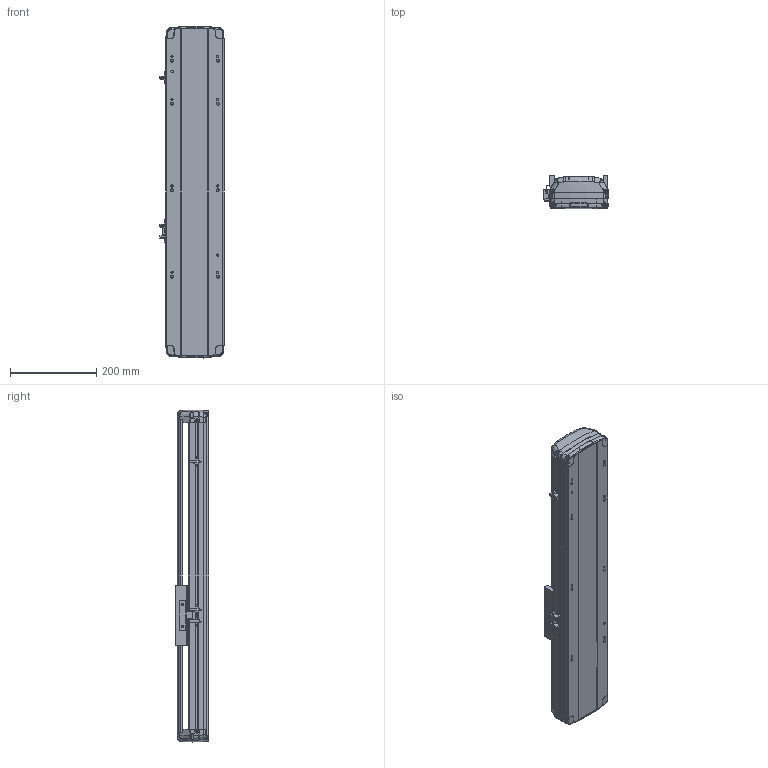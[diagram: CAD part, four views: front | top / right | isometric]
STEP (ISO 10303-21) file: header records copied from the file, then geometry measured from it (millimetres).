
FILE_DESCRIPTION (( 'STEP AP214' ), '1' );
FILE_NAME ('RTH14-XX-350-B-M20B-C4.STEP', '2025-10-24T08:33:58', ( 'Microsoft' ), ( 'Microsoft' ), 'SwSTEP 2.0', 'SolidWorks 2018', '' );
FILE_SCHEMA (( 'AUTOMOTIVE_DESIGN' ));
Length unit declared in the file: millimetre
Products named in the file (7): N_RTH14-R-004-SFSR16賑釱^RTH14-XX-XX-B-M20B-C4; N_RTH14-GY-001P^RTH14-XX-XX-B-M20B-C4; N_RTH13-L-012感应片（外置）^RTH14-XX-XX-B-M20B-C4; N_OMRON EE-SX672 传感器^RTH14-XX-XX-B-M20B-C4; N_RTH14-B-007B奻裔^RTH14-XX-XX-B-M20B-C4; RTH14-XX-350-B-M20B-C4; N_RTH14-B-011PB菁釱^RTH14-XX-XX-B-M20B-C4
Assembly tree (9 placements, depth 2):
  RTH14-XX-350-B-M20B-C4
    N_RTH14-B-011PB菁釱^RTH14-XX-XX-B-M20B-C4
    N_RTH14-B-007B奻裔^RTH14-XX-XX-B-M20B-C4
    N_RTH13-L-012感应片（外置）^RTH14-XX-XX-B-M20B-C4
    N_OMRON EE-SX672 传感器^RTH14-XX-XX-B-M20B-C4  x3
    N_RTH14-R-004-SFSR16賑釱^RTH14-XX-XX-B-M20B-C4
    N_RTH14-GY-001P^RTH14-XX-XX-B-M20B-C4  x2
Bounding box: 148.5 x 78.03 x 768.74 mm (x, y, z)
Volume: 3266327.2 mm3; surface area: 763122.6 mm2
Topology: 9 solids, 9 shells, 1900 faces, 5350 edges, 3482 vertices
Faces by surface type: plane 975, bspline 450, cylinder 411, cone 56, torus 8
Entity records: 45930 total; most frequent: CARTESIAN_POINT 20702, ORIENTED_EDGE 5716, DIRECTION 4161, EDGE_CURVE 2858, VERTEX_POINT 1868, VECTOR 1617, LINE 1617, AXIS2_PLACEMENT_3D 1272
